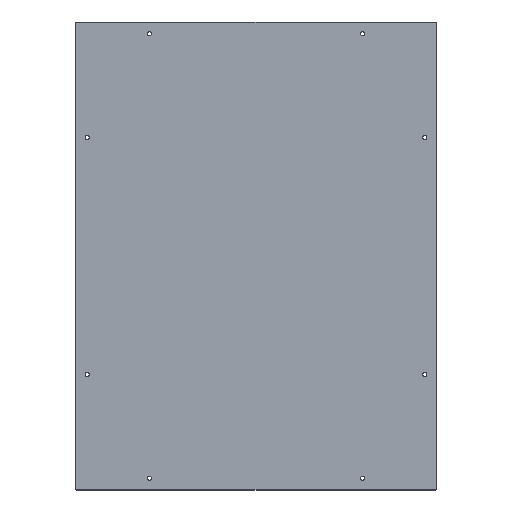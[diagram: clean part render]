
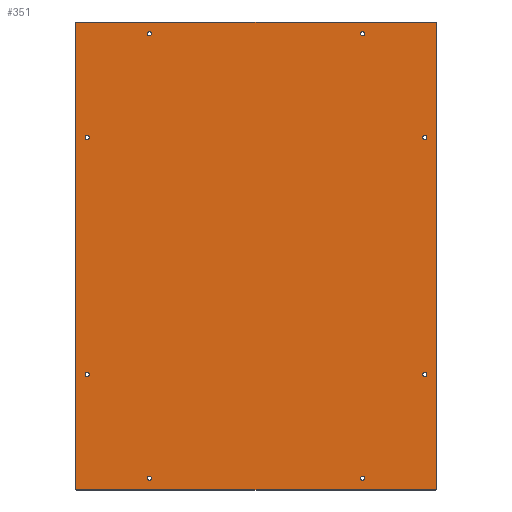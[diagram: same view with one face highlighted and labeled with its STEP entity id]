
A CAD part, top view. The second image highlights one B-rep face of the part: STEP entity #351.
In plain terms, the highlighted planar face has unit normal (0, 0, 1).
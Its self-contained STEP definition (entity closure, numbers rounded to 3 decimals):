
#15=FACE_BOUND('',#58,.T.);
#16=FACE_BOUND('',#59,.T.);
#17=FACE_BOUND('',#60,.T.);
#18=FACE_BOUND('',#61,.T.);
#19=FACE_BOUND('',#62,.T.);
#20=FACE_BOUND('',#63,.T.);
#21=FACE_BOUND('',#64,.T.);
#22=FACE_BOUND('',#65,.T.);
#32=PLANE('',#385);
#39=FACE_OUTER_BOUND('',#57,.T.);
#57=EDGE_LOOP('',(#249,#250,#251,#252,#253,#254,#255,#256));
#58=EDGE_LOOP('',(#257));
#59=EDGE_LOOP('',(#258));
#60=EDGE_LOOP('',(#259));
#61=EDGE_LOOP('',(#260));
#62=EDGE_LOOP('',(#261));
#63=EDGE_LOOP('',(#262));
#64=EDGE_LOOP('',(#263));
#65=EDGE_LOOP('',(#264));
#91=LINE('',#545,#115);
#94=LINE('',#551,#118);
#95=LINE('',#555,#119);
#96=LINE('',#559,#120);
#115=VECTOR('',#435,10.);
#118=VECTOR('',#440,10.);
#119=VECTOR('',#443,10.);
#120=VECTOR('',#446,10.);
#137=CIRCLE('',#382,2.);
#139=CIRCLE('',#386,2.);
#140=CIRCLE('',#387,2.);
#141=CIRCLE('',#388,2.);
#142=CIRCLE('',#389,3.5);
#143=CIRCLE('',#390,3.5);
#144=CIRCLE('',#391,3.5);
#145=CIRCLE('',#392,3.5);
#146=CIRCLE('',#393,3.5);
#147=CIRCLE('',#394,3.5);
#148=CIRCLE('',#395,3.5);
#149=CIRCLE('',#396,3.5);
#161=VERTEX_POINT('',#535);
#162=VERTEX_POINT('',#536);
#165=VERTEX_POINT('',#544);
#167=VERTEX_POINT('',#550);
#168=VERTEX_POINT('',#552);
#169=VERTEX_POINT('',#554);
#170=VERTEX_POINT('',#556);
#171=VERTEX_POINT('',#558);
#172=VERTEX_POINT('',#561);
#173=VERTEX_POINT('',#563);
#174=VERTEX_POINT('',#565);
#175=VERTEX_POINT('',#567);
#176=VERTEX_POINT('',#569);
#177=VERTEX_POINT('',#571);
#178=VERTEX_POINT('',#573);
#179=VERTEX_POINT('',#575);
#193=EDGE_CURVE('',#161,#162,#137,.T.);
#197=EDGE_CURVE('',#165,#162,#91,.T.);
#200=EDGE_CURVE('',#161,#167,#94,.T.);
#201=EDGE_CURVE('',#168,#167,#139,.T.);
#202=EDGE_CURVE('',#168,#169,#95,.T.);
#203=EDGE_CURVE('',#170,#169,#140,.T.);
#204=EDGE_CURVE('',#170,#171,#96,.T.);
#205=EDGE_CURVE('',#165,#171,#141,.T.);
#206=EDGE_CURVE('',#172,#172,#142,.T.);
#207=EDGE_CURVE('',#173,#173,#143,.T.);
#208=EDGE_CURVE('',#174,#174,#144,.T.);
#209=EDGE_CURVE('',#175,#175,#145,.T.);
#210=EDGE_CURVE('',#176,#176,#146,.T.);
#211=EDGE_CURVE('',#177,#177,#147,.T.);
#212=EDGE_CURVE('',#178,#178,#148,.T.);
#213=EDGE_CURVE('',#179,#179,#149,.T.);
#249=ORIENTED_EDGE('',*,*,#193,.F.);
#250=ORIENTED_EDGE('',*,*,#200,.T.);
#251=ORIENTED_EDGE('',*,*,#201,.F.);
#252=ORIENTED_EDGE('',*,*,#202,.T.);
#253=ORIENTED_EDGE('',*,*,#203,.F.);
#254=ORIENTED_EDGE('',*,*,#204,.T.);
#255=ORIENTED_EDGE('',*,*,#205,.F.);
#256=ORIENTED_EDGE('',*,*,#197,.T.);
#257=ORIENTED_EDGE('',*,*,#206,.T.);
#258=ORIENTED_EDGE('',*,*,#207,.T.);
#259=ORIENTED_EDGE('',*,*,#208,.T.);
#260=ORIENTED_EDGE('',*,*,#209,.T.);
#261=ORIENTED_EDGE('',*,*,#210,.T.);
#262=ORIENTED_EDGE('',*,*,#211,.T.);
#263=ORIENTED_EDGE('',*,*,#212,.T.);
#264=ORIENTED_EDGE('',*,*,#213,.T.);
#351=ADVANCED_FACE('',(#39,#15,#16,#17,#18,#19,#20,#21,#22),#32,.T.);
#382=AXIS2_PLACEMENT_3D('',#537,#427,#428);
#385=AXIS2_PLACEMENT_3D('',#549,#438,#439);
#386=AXIS2_PLACEMENT_3D('',#553,#441,#442);
#387=AXIS2_PLACEMENT_3D('',#557,#444,#445);
#388=AXIS2_PLACEMENT_3D('',#560,#447,#448);
#389=AXIS2_PLACEMENT_3D('',#562,#449,#450);
#390=AXIS2_PLACEMENT_3D('',#564,#451,#452);
#391=AXIS2_PLACEMENT_3D('',#566,#453,#454);
#392=AXIS2_PLACEMENT_3D('',#568,#455,#456);
#393=AXIS2_PLACEMENT_3D('',#570,#457,#458);
#394=AXIS2_PLACEMENT_3D('',#572,#459,#460);
#395=AXIS2_PLACEMENT_3D('',#574,#461,#462);
#396=AXIS2_PLACEMENT_3D('',#576,#463,#464);
#427=DIRECTION('center_axis',(0.,0.,-1.));
#428=DIRECTION('ref_axis',(0.707,0.707,0.));
#435=DIRECTION('',(0.,1.,0.));
#438=DIRECTION('center_axis',(0.,0.,1.));
#439=DIRECTION('ref_axis',(1.,0.,0.));
#440=DIRECTION('',(-1.,0.,0.));
#441=DIRECTION('center_axis',(0.,0.,-1.));
#442=DIRECTION('ref_axis',(-0.707,0.707,0.));
#443=DIRECTION('',(0.,-1.,0.));
#444=DIRECTION('center_axis',(0.,0.,-1.));
#445=DIRECTION('ref_axis',(-0.707,-0.707,0.));
#446=DIRECTION('',(1.,0.,0.));
#447=DIRECTION('center_axis',(0.,0.,-1.));
#448=DIRECTION('ref_axis',(0.707,-0.707,0.));
#449=DIRECTION('center_axis',(0.,0.,-1.));
#450=DIRECTION('ref_axis',(1.,0.,0.));
#451=DIRECTION('center_axis',(0.,0.,-1.));
#452=DIRECTION('ref_axis',(1.,0.,0.));
#453=DIRECTION('center_axis',(0.,0.,-1.));
#454=DIRECTION('ref_axis',(1.,0.,0.));
#455=DIRECTION('center_axis',(0.,0.,-1.));
#456=DIRECTION('ref_axis',(1.,0.,0.));
#457=DIRECTION('center_axis',(0.,0.,-1.));
#458=DIRECTION('ref_axis',(1.,0.,0.));
#459=DIRECTION('center_axis',(0.,0.,-1.));
#460=DIRECTION('ref_axis',(1.,0.,0.));
#461=DIRECTION('center_axis',(0.,0.,-1.));
#462=DIRECTION('ref_axis',(1.,0.,0.));
#463=DIRECTION('center_axis',(0.,0.,-1.));
#464=DIRECTION('ref_axis',(1.,0.,0.));
#535=CARTESIAN_POINT('',(607.6,790.,3.67));
#536=CARTESIAN_POINT('',(609.6,788.,3.67));
#537=CARTESIAN_POINT('Origin',(607.6,788.,3.67));
#544=CARTESIAN_POINT('',(609.6,2.,3.67));
#545=CARTESIAN_POINT('',(609.6,0.,3.67));
#549=CARTESIAN_POINT('Origin',(304.8,395.,3.67));
#550=CARTESIAN_POINT('',(2.,790.,3.67));
#551=CARTESIAN_POINT('',(609.6,790.,3.67));
#552=CARTESIAN_POINT('',(0.,788.,3.67));
#553=CARTESIAN_POINT('Origin',(2.,788.,3.67));
#554=CARTESIAN_POINT('',(0.,2.,3.67));
#555=CARTESIAN_POINT('',(0.,790.,3.67));
#556=CARTESIAN_POINT('',(2.,0.,3.67));
#557=CARTESIAN_POINT('Origin',(2.,2.,3.67));
#558=CARTESIAN_POINT('',(607.6,0.,3.67));
#559=CARTESIAN_POINT('',(0.,0.,3.67));
#560=CARTESIAN_POINT('Origin',(607.6,2.,3.67));
#561=CARTESIAN_POINT('',(16.5,595.,3.67));
#562=CARTESIAN_POINT('Origin',(20.,595.,3.67));
#563=CARTESIAN_POINT('',(121.3,20.,3.67));
#564=CARTESIAN_POINT('Origin',(124.8,20.,3.67));
#565=CARTESIAN_POINT('',(586.1,195.,3.67));
#566=CARTESIAN_POINT('Origin',(589.6,195.,3.67));
#567=CARTESIAN_POINT('',(121.3,770.,3.67));
#568=CARTESIAN_POINT('Origin',(124.8,770.,3.67));
#569=CARTESIAN_POINT('',(481.3,20.,3.67));
#570=CARTESIAN_POINT('Origin',(484.8,20.,3.67));
#571=CARTESIAN_POINT('',(481.3,770.,3.67));
#572=CARTESIAN_POINT('Origin',(484.8,770.,3.67));
#573=CARTESIAN_POINT('',(16.5,195.,3.67));
#574=CARTESIAN_POINT('Origin',(20.,195.,3.67));
#575=CARTESIAN_POINT('',(586.1,595.,3.67));
#576=CARTESIAN_POINT('Origin',(589.6,595.,3.67));
